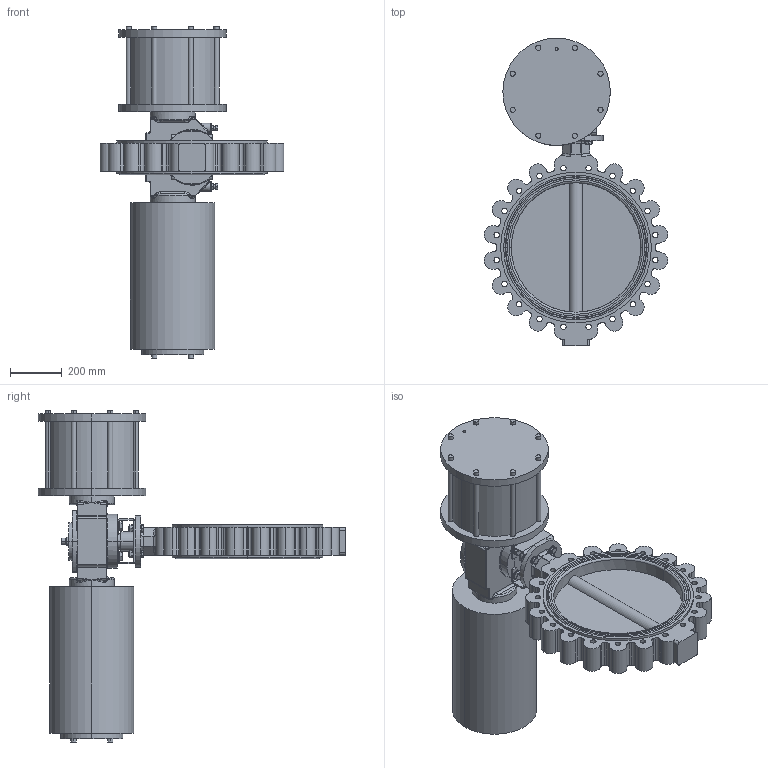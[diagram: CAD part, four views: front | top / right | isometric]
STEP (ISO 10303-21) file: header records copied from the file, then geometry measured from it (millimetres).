
FILE_DESCRIPTION (( 'STEP AP214' ), '1' );
FILE_NAME ('67369.step', '2020-10-23T12:39:12', ( '' ), ( '' ), 'SwSTEP 2.0', 'SolidWorks 2019', '' );
FILE_SCHEMA (( 'AUTOMOTIVE_DESIGN' ));
Length unit declared in the file: millimetre
Products named in the file (11): 6kt-Schr DIN 933_M20x35; 67389; MB F16-F14_MB F16-F14 (1.4301); TL20-0500_M01; SY01F16-350 SR6; 6kt-Schr DIN 933_M16x50; Passfeder DIN 6885 A_18_11X125; 67369; U-Scheibe DIN 125 A_M16; U-Scheibe DIN 125 A_M20; 6kt-Mu DIN 934_M16
Assembly tree (29 placements, depth 2):
  67369
    TL20-0500_M01
    SY01F16-350 SR6
    U-Scheibe DIN 125 A_M16  x8
    6kt-Schr DIN 933_M16x50  x4
    MB F16-F14_MB F16-F14 (1.4301)
    6kt-Mu DIN 934_M16  x4
    6kt-Schr DIN 933_M20x35  x4
    U-Scheibe DIN 125 A_M20  x4
    67389
    Passfeder DIN 6885 A_18_11X125
Bounding box: 708.99 x 1188 x 1282 mm (x, y, z)
Volume: 119002370 mm3; surface area: 3628912.5 mm2
Topology: 29 solids, 29 shells, 1162 faces, 2785 edges, 1701 vertices
Faces by surface type: cylinder 487, plane 403, cone 146, bspline 74, torus 52
Entity records: 33072 total; most frequent: CARTESIAN_POINT 10624, DIRECTION 4551, ORIENTED_EDGE 4294, EDGE_CURVE 2147, AXIS2_PLACEMENT_3D 1813, VERTEX_POINT 1345, EDGE_LOOP 998, CIRCLE 981
